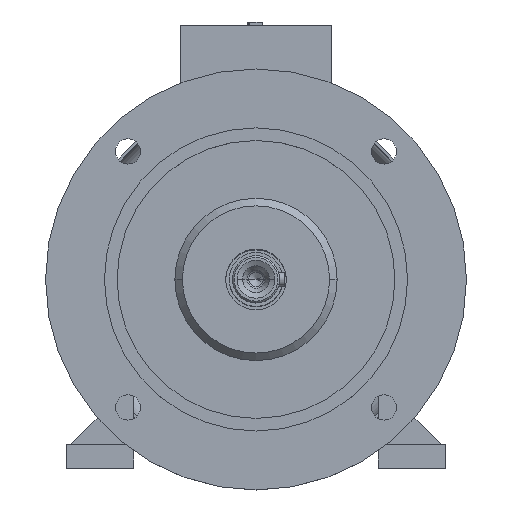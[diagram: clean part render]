
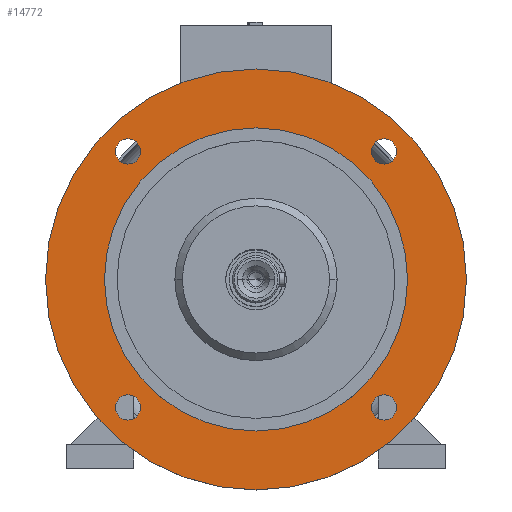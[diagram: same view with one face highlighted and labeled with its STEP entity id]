
A CAD part, top view. The second image highlights one B-rep face of the part: STEP entity #14772.
In plain terms, the highlighted planar face has unit normal (0, 0, 1).
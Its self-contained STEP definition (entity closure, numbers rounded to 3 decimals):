
#148 = FACE_BOUND ( 'NONE', #5840, .T. ) ;
#219 = AXIS2_PLACEMENT_3D ( 'NONE', #8276, #15616, #1076 ) ;
#267 = DIRECTION ( 'NONE',  ( 0., 1., 0. ) ) ;
#484 = DIRECTION ( 'NONE',  ( 0., -1., 0. ) ) ;
#496 = CIRCLE ( 'NONE', #9225, 7.5 ) ;
#916 = DIRECTION ( 'NONE',  ( 0., 0., -1. ) ) ;
#928 = DIRECTION ( 'NONE',  ( -1., 0., 0. ) ) ;
#1039 = EDGE_CURVE ( 'NONE', #10362, #10582, #12699, .T. ) ;
#1076 = DIRECTION ( 'NONE',  ( 0., 1., 0. ) ) ;
#1129 = AXIS2_PLACEMENT_3D ( 'NONE', #4307, #7675, #6897 ) ;
#1204 = ORIENTED_EDGE ( 'NONE', *, *, #6354, .F. ) ;
#1383 = AXIS2_PLACEMENT_3D ( 'NONE', #8543, #9791, #2462 ) ;
#1474 = CARTESIAN_POINT ( 'NONE',  ( -125., 0., 140. ) ) ;
#1848 = AXIS2_PLACEMENT_3D ( 'NONE', #2001, #5693, #10510 ) ;
#1973 = CARTESIAN_POINT ( 'NONE',  ( 0., 0., 140. ) ) ;
#1994 = EDGE_LOOP ( 'NONE', ( #3655, #14058 ) ) ;
#2001 = CARTESIAN_POINT ( 'NONE',  ( 76.014, -76.014, 140. ) ) ;
#2019 = EDGE_LOOP ( 'NONE', ( #13659, #6609 ) ) ;
#2026 = DIRECTION ( 'NONE',  ( 0., 0., -1. ) ) ;
#2322 = CIRCLE ( 'NONE', #1848, 7.5 ) ;
#2410 = CARTESIAN_POINT ( 'NONE',  ( -83.514, 76.014, 140. ) ) ;
#2462 = DIRECTION ( 'NONE',  ( -1., 0., 0. ) ) ;
#2495 = VERTEX_POINT ( 'NONE', #7621 ) ;
#2564 = VERTEX_POINT ( 'NONE', #6866 ) ;
#2626 = VERTEX_POINT ( 'NONE', #3940 ) ;
#3368 = CIRCLE ( 'NONE', #5905, 7.5 ) ;
#3655 = ORIENTED_EDGE ( 'NONE', *, *, #14476, .T. ) ;
#3687 = CARTESIAN_POINT ( 'NONE',  ( -76.014, 76.014, 140. ) ) ;
#3693 = EDGE_CURVE ( 'NONE', #2495, #2564, #8770, .T. ) ;
#3739 = DIRECTION ( 'NONE',  ( 0., 0., 1. ) ) ;
#3940 = CARTESIAN_POINT ( 'NONE',  ( 68.514, -76.014, 140. ) ) ;
#4307 = CARTESIAN_POINT ( 'NONE',  ( 76.014, -76.014, 140. ) ) ;
#4531 = ORIENTED_EDGE ( 'NONE', *, *, #11476, .F. ) ;
#4539 = FACE_BOUND ( 'NONE', #2019, .T. ) ;
#4629 = ORIENTED_EDGE ( 'NONE', *, *, #7084, .F. ) ;
#4683 = VERTEX_POINT ( 'NONE', #12524 ) ;
#4913 = EDGE_CURVE ( 'NONE', #11094, #14033, #9714, .T. ) ;
#5137 = DIRECTION ( 'NONE',  ( 0., 0., 1. ) ) ;
#5191 = AXIS2_PLACEMENT_3D ( 'NONE', #15474, #916, #10693 ) ;
#5288 = CARTESIAN_POINT ( 'NONE',  ( 83.514, -76.014, 140. ) ) ;
#5467 = ORIENTED_EDGE ( 'NONE', *, *, #4913, .F. ) ;
#5505 = DIRECTION ( 'NONE',  ( 1., 0., 0. ) ) ;
#5693 = DIRECTION ( 'NONE',  ( 0., 0., 1. ) ) ;
#5840 = EDGE_LOOP ( 'NONE', ( #4629, #9010 ) ) ;
#5855 = VERTEX_POINT ( 'NONE', #5288 ) ;
#5905 = AXIS2_PLACEMENT_3D ( 'NONE', #3687, #3739, #14734 ) ;
#6154 = DIRECTION ( 'NONE',  ( 0., -1., 0. ) ) ;
#6354 = EDGE_CURVE ( 'NONE', #2626, #5855, #8120, .T. ) ;
#6609 = ORIENTED_EDGE ( 'NONE', *, *, #11003, .F. ) ;
#6866 = CARTESIAN_POINT ( 'NONE',  ( 83.514, 76.014, 140. ) ) ;
#6897 = DIRECTION ( 'NONE',  ( 1., 0., 0. ) ) ;
#7084 = EDGE_CURVE ( 'NONE', #2564, #2495, #7712, .T. ) ;
#7188 = CARTESIAN_POINT ( 'NONE',  ( -76.014, 76.014, 140. ) ) ;
#7313 = VERTEX_POINT ( 'NONE', #15490 ) ;
#7378 = EDGE_CURVE ( 'NONE', #5855, #2626, #2322, .T. ) ;
#7612 = AXIS2_PLACEMENT_3D ( 'NONE', #11446, #10218, #5505 ) ;
#7621 = CARTESIAN_POINT ( 'NONE',  ( 68.514, 76.014, 140. ) ) ;
#7675 = DIRECTION ( 'NONE',  ( 0., 0., 1. ) ) ;
#7712 = CIRCLE ( 'NONE', #219, 7.5 ) ;
#7732 = CARTESIAN_POINT ( 'NONE',  ( 125., 0., 140. ) ) ;
#7779 = DIRECTION ( 'NONE',  ( 0., 0., 1. ) ) ;
#8120 = CIRCLE ( 'NONE', #1129, 7.5 ) ;
#8276 = CARTESIAN_POINT ( 'NONE',  ( 76.014, 76.014, 140. ) ) ;
#8543 = CARTESIAN_POINT ( 'NONE',  ( 0., 0., 140. ) ) ;
#8770 = CIRCLE ( 'NONE', #12522, 7.5 ) ;
#8804 = PLANE ( 'NONE',  #7612 ) ;
#9010 = ORIENTED_EDGE ( 'NONE', *, *, #3693, .F. ) ;
#9064 = AXIS2_PLACEMENT_3D ( 'NONE', #15104, #7779, #484 ) ;
#9103 = CARTESIAN_POINT ( 'NONE',  ( -68.514, -76.014, 140. ) ) ;
#9225 = AXIS2_PLACEMENT_3D ( 'NONE', #7188, #9647, #10895 ) ;
#9498 = CIRCLE ( 'NONE', #1383, 90. ) ;
#9527 = CARTESIAN_POINT ( 'NONE',  ( 0., 0., 140. ) ) ;
#9647 = DIRECTION ( 'NONE',  ( 0., 0., 1. ) ) ;
#9714 = CIRCLE ( 'NONE', #12108, 125. ) ;
#9723 = VERTEX_POINT ( 'NONE', #14104 ) ;
#9788 = DIRECTION ( 'NONE',  ( 0., 0., 1. ) ) ;
#9791 = DIRECTION ( 'NONE',  ( 0., 0., -1. ) ) ;
#9910 = CIRCLE ( 'NONE', #9064, 7.5 ) ;
#9966 = ORIENTED_EDGE ( 'NONE', *, *, #1039, .F. ) ;
#10218 = DIRECTION ( 'NONE',  ( 0., 0., 1. ) ) ;
#10362 = VERTEX_POINT ( 'NONE', #9103 ) ;
#10510 = DIRECTION ( 'NONE',  ( 1., 0., 0. ) ) ;
#10582 = VERTEX_POINT ( 'NONE', #15483 ) ;
#10616 = VERTEX_POINT ( 'NONE', #2410 ) ;
#10653 = FACE_BOUND ( 'NONE', #11121, .T. ) ;
#10693 = DIRECTION ( 'NONE',  ( -1., 0., 0. ) ) ;
#10895 = DIRECTION ( 'NONE',  ( -1., 0., 0. ) ) ;
#11003 = EDGE_CURVE ( 'NONE', #10616, #7313, #496, .T. ) ;
#11094 = VERTEX_POINT ( 'NONE', #1474 ) ;
#11121 = EDGE_LOOP ( 'NONE', ( #14947, #1204 ) ) ;
#11431 = FACE_BOUND ( 'NONE', #14658, .T. ) ;
#11446 = CARTESIAN_POINT ( 'NONE',  ( 0., 125., 140. ) ) ;
#11476 = EDGE_CURVE ( 'NONE', #14033, #11094, #15010, .T. ) ;
#11615 = FACE_BOUND ( 'NONE', #1994, .T. ) ;
#11705 = DIRECTION ( 'NONE',  ( -1., 0., 0. ) ) ;
#12108 = AXIS2_PLACEMENT_3D ( 'NONE', #1973, #2026, #11705 ) ;
#12463 = CARTESIAN_POINT ( 'NONE',  ( 76.014, 76.014, 140. ) ) ;
#12522 = AXIS2_PLACEMENT_3D ( 'NONE', #12463, #5137, #267 ) ;
#12524 = CARTESIAN_POINT ( 'NONE',  ( 90., 0., 140. ) ) ;
#12699 = CIRCLE ( 'NONE', #13162, 7.5 ) ;
#13162 = AXIS2_PLACEMENT_3D ( 'NONE', #13628, #9788, #6154 ) ;
#13628 = CARTESIAN_POINT ( 'NONE',  ( -76.014, -76.014, 140. ) ) ;
#13659 = ORIENTED_EDGE ( 'NONE', *, *, #15175, .F. ) ;
#14033 = VERTEX_POINT ( 'NONE', #7732 ) ;
#14058 = ORIENTED_EDGE ( 'NONE', *, *, #14615, .T. ) ;
#14100 = FACE_OUTER_BOUND ( 'NONE', #14810, .T. ) ;
#14104 = CARTESIAN_POINT ( 'NONE',  ( -90., 0., 140. ) ) ;
#14295 = DIRECTION ( 'NONE',  ( 0., 0., -1. ) ) ;
#14367 = AXIS2_PLACEMENT_3D ( 'NONE', #9527, #14295, #928 ) ;
#14476 = EDGE_CURVE ( 'NONE', #9723, #4683, #14494, .T. ) ;
#14494 = CIRCLE ( 'NONE', #5191, 90. ) ;
#14605 = ORIENTED_EDGE ( 'NONE', *, *, #14848, .F. ) ;
#14615 = EDGE_CURVE ( 'NONE', #4683, #9723, #9498, .T. ) ;
#14658 = EDGE_LOOP ( 'NONE', ( #9966, #14605 ) ) ;
#14734 = DIRECTION ( 'NONE',  ( -1., 0., 0. ) ) ;
#14772 = ADVANCED_FACE ( 'NONE', ( #11431, #4539, #148, #10653, #11615, #14100 ), #8804, .T. ) ;
#14810 = EDGE_LOOP ( 'NONE', ( #5467, #4531 ) ) ;
#14848 = EDGE_CURVE ( 'NONE', #10582, #10362, #9910, .T. ) ;
#14947 = ORIENTED_EDGE ( 'NONE', *, *, #7378, .F. ) ;
#15010 = CIRCLE ( 'NONE', #14367, 125. ) ;
#15104 = CARTESIAN_POINT ( 'NONE',  ( -76.014, -76.014, 140. ) ) ;
#15175 = EDGE_CURVE ( 'NONE', #7313, #10616, #3368, .T. ) ;
#15474 = CARTESIAN_POINT ( 'NONE',  ( 0., 0., 140. ) ) ;
#15483 = CARTESIAN_POINT ( 'NONE',  ( -83.514, -76.014, 140. ) ) ;
#15490 = CARTESIAN_POINT ( 'NONE',  ( -68.514, 76.014, 140. ) ) ;
#15616 = DIRECTION ( 'NONE',  ( 0., 0., 1. ) ) ;
